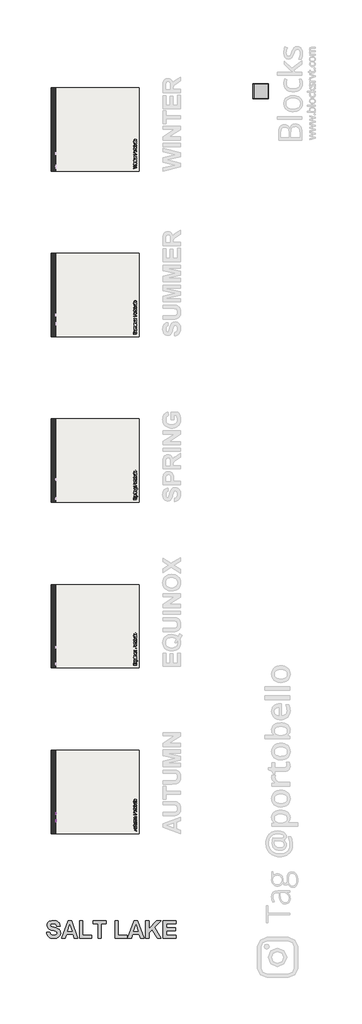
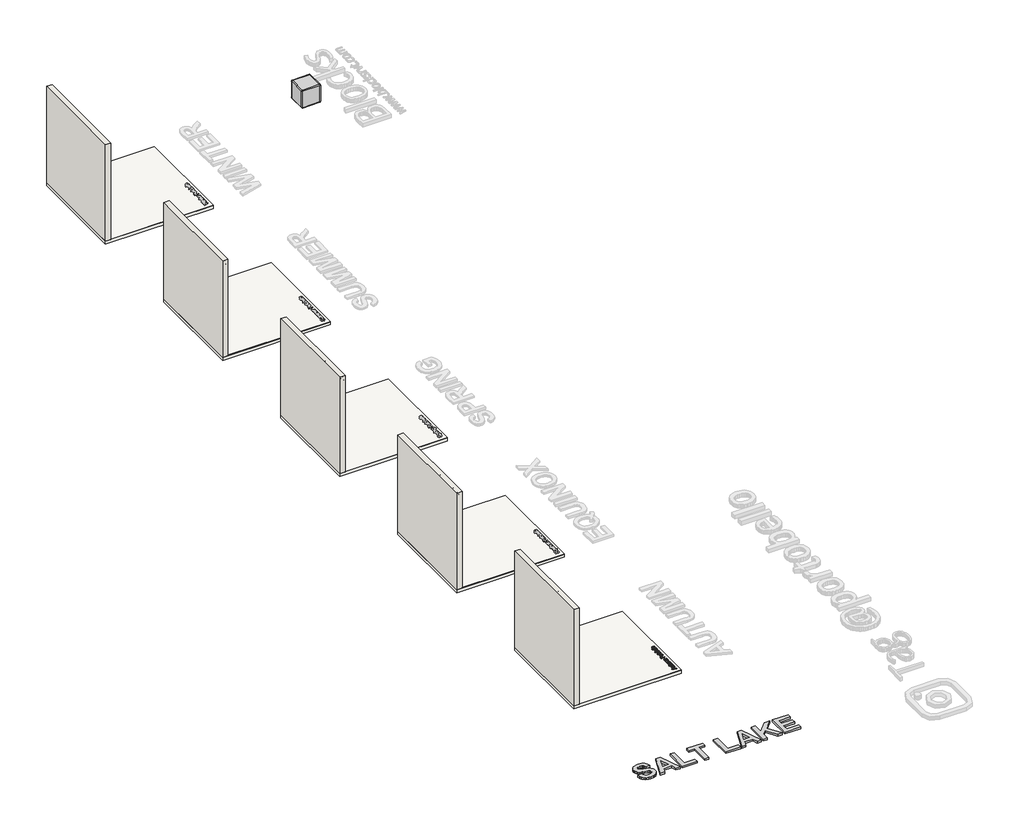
# One storey, part 1 of 7: 10 slabs, 5 proxies, 5 walls, 1 furniture element.
"""IFC4 building model written with IfcOpenShell, lengths in millimetres."""

from ifc_helpers import new_model, si_unit, frame, origin, origin_with_axes, place, context, project, spatial, polyline, outline, extrude, transform, mapped, element, save
from components import branco_22256ad2

model = new_model("IFC4")

# Units and contexts
model_context = context("Model", 3, world=origin())
ifc_project = project(units=[si_unit("LENGTHUNIT", "METRE", prefix="MILLI")], contexts=[model_context])

# Site, building, storey
site = spatial("IfcSite", under=ifc_project)
building = spatial("IfcBuilding", under=site)
storey = spatial("IfcBuildingStorey", under=building, Name="PORTOBELLO - SHOWROOM", Elevation=0.0)

# Proxies
placement = place(None, origin())
element("IfcBuildingElementProxy", 1, Name="10mm Arial", ObjectType="10mm Arial", at=placement, inside=storey, context=model_context, shape_type="SweptSolid", body=[
    extrude(outline(polyline([(-9176.8103543, 2482.3811258), (-9136.7112168, 2582.837436), (-9126.0181135, 2582.837436), (-9085.918976, 2482.3811258), (-9099.1872533, 2482.3811258), (-9110.689697, 2513.7737228), (-9152.0641588, 2513.7737228), (-9163.542077, 2482.3811258), (-9176.8103543, 2482.3811258)]), holes=[polyline([(-9147.4533711, 2526.3307615), (-9115.2759592, 2526.3307615), (-9124.3258563, 2551.0279061), (-9131.3646652, 2570.2803972), (-9137.6186591, 2553.1861472), (-9147.4533711, 2526.3307615)])]), frame((-21807.9634769, 0.0, 0.0), z_axis=(1.0, 0.0, 0.0), x_axis=(0.0, 1.0, 0.0)), (0.0, 0.0, 1.0), 20.0),
    extrude(outline(polyline([(-9026.9842804, 2482.3811258), (-9026.9842804, 2495.0607919), (-9036.8189924, 2484.37382), (-9049.6458113, 2480.811496), (-9061.4548233, 2483.3130936), (-9069.5972782, 2489.5916129), (-9073.3374118, 2498.8377138), (-9074.0731758, 2510.5118357), (-9074.0731758, 2556.1537286), (-9061.516137, 2556.1537286), (-9061.516137, 2516.4224731), (-9060.7558476, 2503.6201797), (-9055.7894406, 2496.1031243), (-9046.4329752, 2493.3685348), (-9035.9483383, 2496.1644379), (-9029.0198941, 2503.7795952), (-9026.9842804, 2517.7713738), (-9026.9842804, 2556.1537286), (-9014.4272416, 2556.1537286), (-9014.4272416, 2482.3811258), (-9026.9842804, 2482.3811258)])), frame((-21807.9634769, 0.0, 0.0), z_axis=(1.0, 0.0, 0.0), x_axis=(0.0, 1.0, 0.0)), (0.0, 0.0, 1.0), 20.0),
    extrude(outline(polyline([(-8970.4776059, 2492.8535), (-8968.9079761, 2482.0132438), (-8978.3012297, 2480.811496), (-8988.8226548, 2482.8961606), (-8994.0711046, 2488.3653396), (-8995.5916835, 2502.6146356), (-8995.5916835, 2543.5966898), (-9005.0094625, 2543.5966898), (-9005.0094625, 2556.1537286), (-8995.5916835, 2556.1537286), (-8995.5916835, 2574.0818445), (-8983.0346447, 2581.4640099), (-8983.0346447, 2556.1537286), (-8970.4776059, 2556.1537286), (-8970.4776059, 2543.5966898), (-8983.0346447, 2543.5966898), (-8983.0346447, 2502.9825176), (-8982.3724571, 2496.5077944), (-8980.2264788, 2494.2146633), (-8975.9467849, 2493.3685348), (-8970.4776059, 2492.8535)])), frame((-21807.9634769, 0.0, 0.0), z_axis=(1.0, 0.0, 0.0), x_axis=(0.0, 1.0, 0.0)), (0.0, 0.0, 1.0), 20.0),
    extrude(outline(polyline([(-8910.8316718, 2482.3811258), (-8910.8316718, 2495.0607919), (-8920.6663838, 2484.37382), (-8933.4932027, 2480.811496), (-8945.3022147, 2483.3130936), (-8953.4446696, 2489.5916129), (-8957.1848032, 2498.8377138), (-8957.9205672, 2510.5118357), (-8957.9205672, 2556.1537286), (-8945.3635284, 2556.1537286), (-8945.3635284, 2516.4224731), (-8944.6032389, 2503.6201797), (-8939.636832, 2496.1031243), (-8930.2803666, 2493.3685348), (-8919.7957297, 2496.1644379), (-8912.8672855, 2503.7795952), (-8910.8316718, 2517.7713738), (-8910.8316718, 2556.1537286), (-8898.274633, 2556.1537286), (-8898.274633, 2482.3811258), (-8910.8316718, 2482.3811258)])), frame((-21807.9634769, 0.0, 0.0), z_axis=(1.0, 0.0, 0.0), x_axis=(0.0, 1.0, 0.0)), (0.0, 0.0, 1.0), 20.0),
    extrude(outline(polyline([(-8881.0087047, 2482.3811258), (-8881.0087047, 2556.1537286), (-8868.4516659, 2556.1537286), (-8868.4516659, 2544.0136228), (-8859.8187018, 2553.9586994), (-8847.5314431, 2557.7233584), (-8834.9498789, 2553.885123), (-8828.0336974, 2543.130706), (-8818.2357736, 2554.0751953), (-8805.8626758, 2557.7233584), (-8796.423437, 2556.2058452), (-8789.4428761, 2551.6533055), (-8785.1294597, 2543.943112), (-8783.6916542, 2532.9526374), (-8783.6916542, 2482.3811258), (-8796.248693, 2482.3811258), (-8796.248693, 2527.5570348), (-8797.4136527, 2538.0416717), (-8801.6320329, 2543.2042824), (-8808.8057318, 2545.1663197), (-8821.1543041, 2540.1385991), (-8824.8423211, 2533.5964309), (-8826.0716601, 2524.0253677), (-8826.0716601, 2482.3811258), (-8838.6286989, 2482.3811258), (-8838.6286989, 2528.9549864), (-8841.5349666, 2541.1196177), (-8851.0631103, 2545.1663197), (-8860.358262, 2542.4685184), (-8866.5386796, 2534.5713182), (-8868.4516659, 2519.5862583), (-8868.4516659, 2482.3811258), (-8881.0087047, 2482.3811258)])), frame((-21807.9634769, 0.0, 0.0), z_axis=(1.0, 0.0, 0.0), x_axis=(0.0, 1.0, 0.0)), (0.0, 0.0, 1.0), 20.0),
    extrude(outline(polyline([(-8764.8560961, 2482.3811258), (-8764.8560961, 2556.1537286), (-8752.2990573, 2556.1537286), (-8752.2990573, 2545.8530327), (-8742.6973373, 2554.755777), (-8729.5884755, 2557.7233584), (-8717.7304125, 2555.3321255), (-8709.6370086, 2549.0536061), (-8705.8723495, 2539.819768), (-8705.2101619, 2527.6796622), (-8705.2101619, 2482.3811258), (-8717.7672007, 2482.3811258), (-8717.7672007, 2525.987405), (-8719.2142032, 2537.0974412), (-8724.327763, 2542.9712904), (-8732.9484644, 2545.1663197), (-8746.5723609, 2540.2367009), (-8750.8673832, 2533.0936589), (-8752.2990573, 2521.5237701), (-8752.2990573, 2482.3811258), (-8764.8560961, 2482.3811258)])), frame((-21807.9634769, 0.0, 0.0), z_axis=(1.0, 0.0, 0.0), x_axis=(0.0, 1.0, 0.0)), (0.0, 0.0, 1.0), 20.0),
])
element("IfcBuildingElementProxy", 2, Name="10mm Arial", ObjectType="10mm Arial", at=placement, inside=storey, context=model_context, shape_type="SweptSolid", body=[
    extrude(outline(polyline([(-8639.9328663, 2482.3811258), (-8639.9328663, 2582.837436), (-8602.7032084, 2582.837436), (-8587.693623, 2581.8809428), (-8575.4922035, 2577.184316), (-8567.5827406, 2567.4722313), (-8564.5906337, 2553.7747584), (-8566.610919, 2541.9350895), (-8572.6717749, 2532.0697206), (-8584.005606, 2525.4110565), (-8601.8448171, 2523.1915018), (-8627.3758276, 2523.1915018), (-8627.3758276, 2482.3811258), (-8639.9328663, 2482.3811258)]), holes=[polyline([(-8627.3758276, 2535.7485406), (-8601.1090531, 2535.7485406), (-8582.6168515, 2540.3593283), (-8578.5149672, 2545.908215), (-8577.1476725, 2553.3333), (-8580.3727713, 2563.7320977), (-8588.8463199, 2569.4220059), (-8601.4033587, 2570.2803972), (-8627.3758276, 2570.2803972), (-8627.3758276, 2535.7485406)])]), frame((-21807.9634769, 0.0, 0.0), z_axis=(1.0, 0.0, 0.0), x_axis=(0.0, 1.0, 0.0)), (0.0, 0.0, 1.0), 20.0),
    extrude(outline(polyline([(-8552.033595, 2519.2674272), (-8549.3173996, 2537.0545217), (-8541.1688134, 2549.5563782), (-8531.1011094, 2555.6816134), (-8519.0468427, 2557.7233584), (-8505.8552075, 2555.2370893), (-8495.318454, 2547.7782818), (-8488.4114696, 2535.9355473), (-8486.1091414, 2520.2974968), (-8490.1803688, 2497.954797), (-8502.0384318, 2485.3119191), (-8519.0468427, 2480.811496), (-8532.3978935, 2483.2885681), (-8542.9223842, 2490.7197844), (-8549.7557923, 2502.8108393), (-8552.033595, 2519.2674272)]), holes=[polyline([(-8539.4765562, 2519.2919527), (-8538.0234223, 2507.9274647), (-8533.6640207, 2499.8309951), (-8527.1034584, 2494.9841499), (-8519.0468427, 2493.3685348), (-8511.0270152, 2494.9933469), (-8504.4787157, 2499.8677833), (-8500.1193141, 2508.0715518), (-8498.6661802, 2519.6843601), (-8500.1285111, 2530.7177543), (-8504.5155039, 2538.7038593), (-8511.0730005, 2543.5507046), (-8519.0468427, 2545.1663197), (-8527.1034584, 2543.5568359), (-8533.6640207, 2538.7283848), (-8538.0234223, 2530.6503093), (-8539.4765562, 2519.2919527)])]), frame((-21807.9634769, 0.0, 0.0), z_axis=(1.0, 0.0, 0.0), x_axis=(0.0, 1.0, 0.0)), (0.0, 0.0, 1.0), 20.0),
    extrude(outline(polyline([(-8471.9824728, 2482.3811258), (-8471.9824728, 2556.1537286), (-8460.9950639, 2556.1537286), (-8460.9950639, 2545.2398961), (-8453.1959656, 2555.2953373), (-8445.3478164, 2557.7233584), (-8432.7417267, 2553.8483348), (-8436.9355814, 2542.5911457), (-8445.7647493, 2545.1663197), (-8452.8648718, 2542.6892476), (-8457.3898203, 2535.822117), (-8459.425434, 2521.1558881), (-8459.425434, 2482.3811258), (-8471.9824728, 2482.3811258)])), frame((-21807.9634769, 0.0, 0.0), z_axis=(1.0, 0.0, 0.0), x_axis=(0.0, 1.0, 0.0)), (0.0, 0.0, 1.0), 20.0),
    extrude(outline(polyline([(-8398.20987, 2492.8535), (-8396.6402402, 2482.0132438), (-8406.0334938, 2480.811496), (-8416.5549189, 2482.8961606), (-8421.8033687, 2488.3653396), (-8423.3239476, 2502.6146356), (-8423.3239476, 2543.5966898), (-8432.7417267, 2543.5966898), (-8432.7417267, 2553.8483348), (-8432.7417267, 2556.1537286), (-8423.3239476, 2556.1537286), (-8423.3239476, 2574.0818445), (-8410.7669088, 2581.4640099), (-8410.7669088, 2556.1537286), (-8398.20987, 2556.1537286), (-8398.20987, 2543.5966898), (-8410.7669088, 2543.5966898), (-8410.7669088, 2502.9825176), (-8410.1047212, 2496.5077944), (-8407.9587429, 2494.2146633), (-8403.679049, 2493.3685348), (-8398.20987, 2492.8535)])), frame((-21807.9634769, 0.0, 0.0), z_axis=(1.0, 0.0, 0.0), x_axis=(0.0, 1.0, 0.0)), (0.0, 0.0, 1.0), 20.0),
    extrude(outline(polyline([(-8388.792091, 2519.2674272), (-8386.0758956, 2537.0545217), (-8377.9273094, 2549.5563782), (-8367.8596054, 2555.6816134), (-8355.8053387, 2557.7233584), (-8342.6137035, 2555.2370893), (-8332.07695, 2547.7782818), (-8325.1699656, 2535.9355473), (-8322.8676374, 2520.2974968), (-8326.9388648, 2497.954797), (-8338.7969278, 2485.3119191), (-8355.8053387, 2480.811496), (-8369.1563895, 2483.2885681), (-8379.6808802, 2490.7197844), (-8386.5142883, 2502.8108393), (-8388.792091, 2519.2674272)]), holes=[polyline([(-8376.2350522, 2519.2919527), (-8374.7819183, 2507.9274647), (-8370.4225167, 2499.8309951), (-8363.8619544, 2494.9841499), (-8355.8053387, 2493.3685348), (-8347.7855112, 2494.9933469), (-8341.2372117, 2499.8677833), (-8336.8778101, 2508.0715518), (-8335.4246762, 2519.6843601), (-8336.8870071, 2530.7177543), (-8341.2739999, 2538.7038593), (-8347.8314965, 2543.5507046), (-8355.8053387, 2545.1663197), (-8363.8619544, 2543.5568359), (-8370.4225167, 2538.7283848), (-8374.7819183, 2530.6503093), (-8376.2350522, 2519.2919527)])]), frame((-21807.9634769, 0.0, 0.0), z_axis=(1.0, 0.0, 0.0), x_axis=(0.0, 1.0, 0.0)), (0.0, 0.0, 1.0), 20.0),
    extrude(outline(polyline([(-8296.18393, 2482.3811258), (-8308.7409688, 2482.3811258), (-8308.7409688, 2582.837436), (-8296.18393, 2582.837436), (-8296.18393, 2545.5832526), (-8287.3915504, 2554.688332), (-8276.4654551, 2557.7233584), (-8263.8838909, 2554.9887689), (-8254.1227553, 2547.3000352), (-8248.1262787, 2535.3438704), (-8245.955775, 2520.3710732), (-8248.2029208, 2503.607917), (-8254.9443584, 2491.1367173), (-8264.8373184, 2483.3928013), (-8276.5390315, 2480.811496), (-8287.7042501, 2484.140828), (-8296.18393, 2494.1288242), (-8296.18393, 2482.3811258)]), holes=[polyline([(-8296.18393, 2519.782462), (-8292.7503648, 2502.2222281), (-8286.1714084, 2495.5819581), (-8277.618152, 2493.3685348), (-8270.3708767, 2494.9994783), (-8264.1781965, 2499.8923088), (-8259.9291594, 2508.0163695), (-8258.5128137, 2519.3410036), (-8259.8709114, 2530.8311846), (-8263.9452045, 2538.8632748), (-8269.9447467, 2543.5905585), (-8277.0785918, 2545.1663197), (-8284.3258671, 2543.5353762), (-8290.5185473, 2538.6425456), (-8294.7675844, 2530.6656377), (-8296.18393, 2519.782462)])]), frame((-21807.9634769, 0.0, 0.0), z_axis=(1.0, 0.0, 0.0), x_axis=(0.0, 1.0, 0.0)), (0.0, 0.0, 1.0), 20.0),
    extrude(outline(polyline([(-8180.1784742, 2504.3559437), (-8167.8666901, 2502.7863138), (-8172.3027339, 2493.5095562), (-8179.3813966, 2486.5749806), (-8188.9432628, 2482.2523671), (-8200.8289169, 2480.811496), (-8215.5625908, 2483.2977651), (-8226.8994876, 2490.7565726), (-8234.1283688, 2502.7035404), (-8236.5379959, 2518.6542906), (-8234.1038434, 2535.1415353), (-8226.8013858, 2547.4717135), (-8215.6177731, 2555.1604472), (-8201.5401554, 2557.7233584), (-8187.9009305, 2555.1665786), (-8177.0024263, 2547.496239), (-8169.8563186, 2535.1905862), (-8167.4742827, 2518.727867), (-8167.5478591, 2515.3433526), (-8223.9809571, 2515.3433526), (-8221.8073877, 2505.9439676), (-8216.7582073, 2499.0339175), (-8209.4710781, 2494.7848804), (-8200.5836622, 2493.3685348), (-8188.2718781, 2495.9927597), (-8180.1784742, 2504.3559437)]), holes=[polyline([(-8223.9809571, 2527.9003914), (-8180.0313214, 2527.9003914), (-8185.059042, 2539.2802078), (-8192.3798937, 2543.6947917), (-8201.5892064, 2545.1663197), (-8217.0525129, 2540.4696929), (-8221.9177523, 2534.9790541), (-8223.9809571, 2527.9003914)])]), frame((-21807.9634769, 0.0, 0.0), z_axis=(1.0, 0.0, 0.0), x_axis=(0.0, 1.0, 0.0)), (0.0, 0.0, 1.0), 20.0),
    extrude(outline(polyline([(-21787.9634769, -8142.3602051), (-21787.9634769, -8154.9172439), (-21807.9634769, -8154.9172439), (-21807.9634769, -8142.3602051), (-21787.9634769, -8142.3602051)])), frame((0.0, 0.0, 2482.3811258), z_axis=(0.0, 0.0, 1.0), x_axis=(1.0, 0.0, 0.0)), (0.0, 0.0, 1.0), 100.4563101),
    extrude(outline(polyline([(-21787.9634769, -8110.9676082), (-21787.9634769, -8123.524647), (-21807.9634769, -8123.524647), (-21807.9634769, -8110.9676082), (-21787.9634769, -8110.9676082)])), frame((0.0, 0.0, 2482.3811258), z_axis=(0.0, 0.0, 1.0), x_axis=(1.0, 0.0, 0.0)), (0.0, 0.0, 1.0), 100.4563101),
    extrude(outline(polyline([(-8095.2713098, 2519.2674272), (-8092.5551144, 2537.0545217), (-8084.4065282, 2549.5563782), (-8074.3388242, 2555.6816134), (-8062.2845575, 2557.7233584), (-8049.0929223, 2555.2370893), (-8038.5561688, 2547.7782818), (-8031.6491844, 2535.9355473), (-8029.3468562, 2520.2974968), (-8033.4180836, 2497.954797), (-8045.2761466, 2485.3119191), (-8062.2845575, 2480.811496), (-8075.6356083, 2483.2885681), (-8086.160099, 2490.7197844), (-8092.9935071, 2502.8108393), (-8095.2713098, 2519.2674272)]), holes=[polyline([(-8082.714271, 2519.2919527), (-8081.2611371, 2507.9274647), (-8076.9017355, 2499.8309951), (-8070.3411732, 2494.9841499), (-8062.2845575, 2493.3685348), (-8054.26473, 2494.9933469), (-8047.7164305, 2499.8677833), (-8043.3570289, 2508.0715518), (-8041.903895, 2519.6843601), (-8043.3662259, 2530.7177543), (-8047.7532187, 2538.7038593), (-8054.3107153, 2543.5507046), (-8062.2845575, 2545.1663197), (-8070.3411732, 2543.5568359), (-8076.9017355, 2538.7283848), (-8081.2611371, 2530.6503093), (-8082.714271, 2519.2919527)])]), frame((-21807.9634769, 0.0, 0.0), z_axis=(1.0, 0.0, 0.0), x_axis=(0.0, 1.0, 0.0)), (0.0, 0.0, 1.0), 20.0),
])
element("IfcBuildingElementProxy", 3, Name="10mm Arial", ObjectType="10mm Arial", at=placement, inside=storey, context=model_context, shape_type="SweptSolid", body=[
    extrude(outline(polyline([(-19183.5351931, -9176.8103543), (-19283.9915032, -9136.7112168), (-19283.9915032, -9126.0181135), (-19183.5351931, -9085.918976), (-19183.5351931, -9099.1872533), (-19214.92779, -9110.689697), (-19214.92779, -9152.0641588), (-19183.5351931, -9163.542077), (-19183.5351931, -9176.8103543)]), holes=[polyline([(-19227.4848288, -9147.4533711), (-19227.4848288, -9115.2759592), (-19252.1819734, -9124.3258563), (-19271.4344645, -9131.3646652), (-19254.3402144, -9137.6186591), (-19227.4848288, -9147.4533711)])]), frame((0.0, 0.0, 15.0), z_axis=(0.0, 0.0, 1.0), x_axis=(1.0, 0.0, 0.0)), (0.0, 0.0, 1.0), 20.0),
    extrude(outline(polyline([(-19183.5351931, -9026.9842804), (-19196.2148592, -9026.9842804), (-19185.5278872, -9036.8189924), (-19181.9655632, -9049.6458113), (-19184.4671608, -9061.4548233), (-19190.7456802, -9069.5972782), (-19199.991781, -9073.3374118), (-19211.665903, -9074.0731758), (-19257.3077959, -9074.0731758), (-19257.3077959, -9061.516137), (-19217.5765404, -9061.516137), (-19204.7742469, -9060.7558476), (-19197.2571915, -9055.7894406), (-19194.522602, -9046.4329752), (-19197.3185052, -9035.9483383), (-19204.9336625, -9029.0198941), (-19218.925441, -9026.9842804), (-19257.3077959, -9026.9842804), (-19257.3077959, -9014.4272416), (-19183.5351931, -9014.4272416), (-19183.5351931, -9026.9842804)])), frame((0.0, 0.0, 15.0), z_axis=(0.0, 0.0, 1.0), x_axis=(1.0, 0.0, 0.0)), (0.0, 0.0, 1.0), 20.0),
    extrude(outline(polyline([(-19194.0075672, -8970.4776059), (-19183.1673111, -8968.9079761), (-19181.9655632, -8978.3012297), (-19184.0502279, -8988.8226548), (-19189.5194069, -8994.0711046), (-19203.7687028, -8995.5916835), (-19244.7507571, -8995.5916835), (-19244.7507571, -9005.0094625), (-19257.3077959, -9005.0094625), (-19257.3077959, -8995.5916835), (-19275.2359118, -8995.5916835), (-19282.6180771, -8983.0346447), (-19257.3077959, -8983.0346447), (-19257.3077959, -8970.4776059), (-19244.7507571, -8970.4776059), (-19244.7507571, -8983.0346447), (-19204.1365848, -8983.0346447), (-19197.6618617, -8982.3724571), (-19195.3687306, -8980.2264788), (-19194.522602, -8975.9467849), (-19194.0075672, -8970.4776059)])), frame((0.0, 0.0, 15.0), z_axis=(0.0, 0.0, 1.0), x_axis=(1.0, 0.0, 0.0)), (0.0, 0.0, 1.0), 20.0),
    extrude(outline(polyline([(-19183.5351931, -8910.8316718), (-19196.2148592, -8910.8316718), (-19185.5278872, -8920.6663838), (-19181.9655632, -8933.4932027), (-19184.4671608, -8945.3022147), (-19190.7456802, -8953.4446696), (-19199.991781, -8957.1848032), (-19211.665903, -8957.9205672), (-19257.3077959, -8957.9205672), (-19257.3077959, -8945.3635284), (-19217.5765404, -8945.3635284), (-19204.7742469, -8944.6032389), (-19197.2571915, -8939.636832), (-19194.522602, -8930.2803666), (-19197.3185052, -8919.7957297), (-19204.9336625, -8912.8672855), (-19218.925441, -8910.8316718), (-19257.3077959, -8910.8316718), (-19257.3077959, -8898.274633), (-19183.5351931, -8898.274633), (-19183.5351931, -8910.8316718)])), frame((0.0, 0.0, 15.0), z_axis=(0.0, 0.0, 1.0), x_axis=(1.0, 0.0, 0.0)), (0.0, 0.0, 1.0), 20.0),
    extrude(outline(polyline([(-19183.5351931, -8881.0087047), (-19257.3077959, -8881.0087047), (-19257.3077959, -8868.4516659), (-19245.16769, -8868.4516659), (-19255.1127666, -8859.8187018), (-19258.8774257, -8847.5314431), (-19255.0391902, -8834.9498789), (-19244.2847732, -8828.0336974), (-19255.2292626, -8818.2357736), (-19258.8774257, -8805.8626758), (-19257.3599125, -8796.423437), (-19252.8073728, -8789.4428761), (-19245.0971793, -8785.1294597), (-19234.1067047, -8783.6916542), (-19183.5351931, -8783.6916542), (-19183.5351931, -8796.248693), (-19228.7111021, -8796.248693), (-19239.195739, -8797.4136527), (-19244.3583496, -8801.6320329), (-19246.3203869, -8808.8057318), (-19241.2926663, -8821.1543041), (-19234.7504982, -8824.8423211), (-19225.1794349, -8826.0716601), (-19183.5351931, -8826.0716601), (-19183.5351931, -8838.6286989), (-19230.1090537, -8838.6286989), (-19242.273685, -8841.5349666), (-19246.3203869, -8851.0631103), (-19243.6225856, -8860.358262), (-19235.7253855, -8866.5386796), (-19220.7403255, -8868.4516659), (-19183.5351931, -8868.4516659), (-19183.5351931, -8881.0087047)])), frame((0.0, 0.0, 15.0), z_axis=(0.0, 0.0, 1.0), x_axis=(1.0, 0.0, 0.0)), (0.0, 0.0, 1.0), 20.0),
    extrude(outline(polyline([(-19183.5351931, -8764.8560961), (-19257.3077959, -8764.8560961), (-19257.3077959, -8752.2990573), (-19247.0071, -8752.2990573), (-19255.9098443, -8742.6973373), (-19258.8774257, -8729.5884755), (-19256.4861927, -8717.7304125), (-19250.2076733, -8709.6370086), (-19240.9738353, -8705.8723495), (-19228.8337294, -8705.2101619), (-19183.5351931, -8705.2101619), (-19183.5351931, -8717.7672007), (-19227.1414722, -8717.7672007), (-19238.2515085, -8719.2142032), (-19244.1253577, -8724.327763), (-19246.3203869, -8732.9484644), (-19241.3907682, -8746.5723609), (-19234.2477261, -8750.8673832), (-19222.6778374, -8752.2990573), (-19183.5351931, -8752.2990573), (-19183.5351931, -8764.8560961)])), frame((0.0, 0.0, 15.0), z_axis=(0.0, 0.0, 1.0), x_axis=(1.0, 0.0, 0.0)), (0.0, 0.0, 1.0), 20.0),
])
element("IfcBuildingElementProxy", 4, Name="10mm Arial Narrow", ObjectType="10mm Arial Narrow", at=placement, inside=storey, context=model_context, shape_type="SweptSolid", body=[
    extrude(outline(polyline([(-19183.5351931, -8642.7978072), (-19284.2537968, -8642.7978072), (-19284.2537968, -8611.5009225), (-19282.3754761, -8595.205221), (-19272.8950329, -8583.7322349), (-19255.8759241, -8579.4425565), (-19243.8000986, -8581.2288649), (-19234.1737048, -8586.5877901), (-19227.8724464, -8596.3315789), (-19225.7720269, -8611.2724781), (-19225.7720269, -8633.0508456), (-19183.5351931, -8633.0508456), (-19183.5351931, -8642.7978072)]), holes=[polyline([(-19237.1434822, -8633.0508456), (-19237.1434822, -8610.0794906), (-19241.6742964, -8594.2152952), (-19255.3428871, -8589.1895181), (-19265.5086636, -8591.6643326), (-19271.3086134, -8597.6419614), (-19272.8823416, -8610.307935), (-19272.8823416, -8633.0508456), (-19237.1434822, -8633.0508456)])]), frame((0.0, 0.0, 15.0), z_axis=(0.0, 0.0, 1.0), x_axis=(1.0, 0.0, 0.0)), (0.0, 0.0, 1.0), 20.0),
    extrude(outline(polyline([(-19220.0862993, -8571.3200884), (-19236.6770748, -8569.3656196), (-19248.6291597, -8563.5022129), (-19255.8537142, -8554.6436462), (-19258.2618991, -8543.7036971), (-19255.8537142, -8532.8906615), (-19248.6291597, -8524.0067121), (-19236.8674452, -8518.0671573), (-19220.8477807, -8516.0873057), (-19203.6858941, -8518.0322561), (-19191.5434389, -8523.8671071), (-19184.3188843, -8532.7161553), (-19181.9106995, -8543.7036971), (-19184.32523, -8554.5643252), (-19191.5688216, -8563.4387562), (-19203.5272521, -8569.3497554), (-19220.0862993, -8571.3200884)]), holes=[polyline([(-19220.111682, -8561.5731268), (-19207.5599306, -8560.2690899), (-19198.6886725, -8556.3569793), (-19193.415414, -8550.5157826), (-19191.6576611, -8543.4244872), (-19193.4312782, -8536.7044141), (-19198.7521293, -8531.0123408), (-19207.6392516, -8527.1287857), (-19220.111682, -8525.8342674), (-19232.6253593, -8527.1383042), (-19241.483926, -8531.0504148), (-19246.7571846, -8536.8916116), (-19248.5149374, -8543.9829069), (-19246.7476661, -8550.7505727), (-19241.445852, -8556.4331275), (-19232.5777667, -8560.2881269), (-19220.111682, -8561.5731268)])]), frame((0.0, 0.0, 15.0), z_axis=(0.0, 0.0, 1.0), x_axis=(1.0, 0.0, 0.0)), (0.0, 0.0, 1.0), 20.0),
    extrude(outline(polyline([(-19191.6576611, -8444.6095869), (-19181.9106995, -8442.9850933), (-19181.9106995, -8450.34608), (-19184.030156, -8458.6208443), (-19189.8301058, -8462.9359055), (-19204.475931, -8464.1035102), (-19246.8904438, -8464.1035102), (-19246.8904438, -8472.2259783), (-19250.1394311, -8472.2259783), (-19245.2659502, -8473.8504719), (-19246.8904438, -8481.4145203), (-19244.5679256, -8487.4936799), (-19238.0826426, -8491.3645436), (-19222.675336, -8493.3443952), (-19183.5351931, -8493.3443952), (-19183.5351931, -8503.0913569), (-19256.6374055, -8503.0913569), (-19256.6374055, -8493.3443952), (-19246.9412093, -8493.3443952), (-19256.0282204, -8487.1002479), (-19258.2618991, -8480.7038043), (-19256.6374055, -8472.2259783), (-19256.6374055, -8464.1035102), (-19272.8823416, -8464.1035102), (-19281.0048096, -8454.3565486), (-19256.6374055, -8454.3565486), (-19256.6374055, -8444.6095869), (-19246.8904438, -8444.6095869), (-19246.8904438, -8454.3565486), (-19202.2422523, -8454.3565486), (-19194.2466978, -8453.4935364), (-19191.6576611, -8448.8738827), (-19191.6576611, -8444.6095869)])), frame((0.0, 0.0, 15.0), z_axis=(0.0, 0.0, 1.0), x_axis=(1.0, 0.0, 0.0)), (0.0, 0.0, 1.0), 20.0),
    extrude(outline(polyline([(-19220.0862993, -8438.1116125), (-19236.6770748, -8436.1571436), (-19248.6291597, -8430.293737), (-19255.8537142, -8421.4351703), (-19258.2618991, -8410.4952211), (-19255.8537142, -8399.6821856), (-19248.6291597, -8390.7982361), (-19236.8674452, -8384.8586814), (-19220.8477807, -8382.8788298), (-19203.6858941, -8384.8237802), (-19191.5434389, -8390.6586312), (-19184.3188843, -8399.5076794), (-19181.9106995, -8410.4952211), (-19184.32523, -8421.3558493), (-19191.5688216, -8430.2302802), (-19203.5272521, -8436.1412794), (-19220.0862993, -8438.1116125)]), holes=[polyline([(-19220.111682, -8428.3646508), (-19207.5599306, -8427.060614), (-19198.6886725, -8423.1485034), (-19193.415414, -8417.3073067), (-19191.6576611, -8410.2160113), (-19193.4312782, -8403.4959381), (-19198.7521293, -8397.8038648), (-19207.6392516, -8393.9203098), (-19220.111682, -8392.6257914), (-19232.6253593, -8393.9298283), (-19241.483926, -8397.8419389), (-19246.7571846, -8403.6831356), (-19248.5149374, -8410.774431), (-19246.7476661, -8417.5420967), (-19241.445852, -8423.2246515), (-19232.5777667, -8427.079651), (-19220.111682, -8428.3646508)])]), frame((0.0, 0.0, 15.0), z_axis=(0.0, 0.0, 1.0), x_axis=(1.0, 0.0, 0.0)), (0.0, 0.0, 1.0), 20.0),
    extrude(outline(polyline([(-19183.5351931, -8360.1359193), (-19183.5351931, -8369.8828809), (-19284.2537968, -8369.8828809), (-19284.2537968, -8360.1359193), (-19248.8449127, -8360.1359193), (-19255.9266895, -8352.7368585), (-19258.2618991, -8343.5356252), (-19254.0610602, -8330.6538985), (-19241.3316298, -8321.3765171), (-19220.644719, -8317.8990854), (-19204.1903755, -8319.8313444), (-19191.9876364, -8325.6281214), (-19184.4299337, -8334.0012438), (-19181.9106995, -8343.6625388), (-19184.5251189, -8353.003377), (-19192.2922289, -8360.1359193), (-19183.5351931, -8360.1359193)]), holes=[polyline([(-19220.644719, -8360.1359193), (-19203.3971657, -8358.0545368), (-19194.6655126, -8352.1657475), (-19191.6576611, -8343.7133042), (-19193.4471424, -8337.7705766), (-19198.8155861, -8332.5322193), (-19220.2385956, -8327.6460471), (-19241.6742964, -8332.3545403), (-19246.8047772, -8337.5992433), (-19248.5149374, -8343.9163659), (-19246.7254562, -8349.8939947), (-19241.3570125, -8355.1862903), (-19220.644719, -8360.1359193)])]), frame((0.0, 0.0, 15.0), z_axis=(0.0, 0.0, 1.0), x_axis=(1.0, 0.0, 0.0)), (0.0, 0.0, 1.0), 20.0),
    extrude(outline(polyline([(-19206.2781036, -8265.91529), (-19204.65361, -8256.1683283), (-19194.7670434, -8259.8678587), (-19187.6471925, -8265.6868455), (-19183.3448227, -8273.3904988), (-19181.9106995, -8282.7440284), (-19184.32523, -8294.3375824), (-19191.5688216, -8303.4817047), (-19203.3749559, -8309.4212594), (-19219.4771142, -8311.401111), (-19236.1440379, -8309.4117409), (-19248.3245671, -8303.4436306), (-19255.7775661, -8294.4295948), (-19258.2618991, -8283.3024481), (-19255.8632328, -8272.6194989), (-19248.6672337, -8263.8719816), (-19236.9277291, -8258.0371305), (-19220.8985461, -8256.0921802), (-19217.6495589, -8256.1683283), (-19217.6495589, -8301.6541493), (-19198.206401, -8295.6511378), (-19193.2948461, -8289.7211016), (-19191.6576611, -8282.6171149), (-19195.3127718, -8272.4386471), (-19206.2781036, -8265.91529)]), holes=[polyline([(-19227.3965205, -8300.9941988), (-19227.3965205, -8265.91529), (-19241.661605, -8270.1795857), (-19246.8016043, -8276.0049182), (-19248.5149374, -8283.2263), (-19242.8038271, -8295.4353848), (-19227.3965205, -8300.9941988)])]), frame((0.0, 0.0, 15.0), z_axis=(0.0, 0.0, 1.0), x_axis=(1.0, 0.0, 0.0)), (0.0, 0.0, 1.0), 20.0),
    extrude(outline(polyline([(-19183.5351931, -8243.1723794), (-19284.2537968, -8243.1723794), (-19284.2537968, -8233.4254178), (-19183.5351931, -8233.4254178), (-19183.5351931, -8243.1723794)])), frame((0.0, 0.0, 15.0), z_axis=(0.0, 0.0, 1.0), x_axis=(1.0, 0.0, 0.0)), (0.0, 0.0, 1.0), 20.0),
    extrude(outline(polyline([(-19183.5351931, -8217.1804817), (-19284.2537968, -8217.1804817), (-19284.2537968, -8207.43352), (-19183.5351931, -8207.43352), (-19183.5351931, -8217.1804817)])), frame((0.0, 0.0, 15.0), z_axis=(0.0, 0.0, 1.0), x_axis=(1.0, 0.0, 0.0)), (0.0, 0.0, 1.0), 20.0),
    extrude(outline(polyline([(-19220.0862993, -8196.0620648), (-19236.6770748, -8194.1075959), (-19248.6291597, -8188.2441893), (-19255.8537142, -8179.3856226), (-19258.2618991, -8168.4456734), (-19255.8537142, -8157.6326378), (-19248.6291597, -8148.7486884), (-19236.8674452, -8142.8091337), (-19220.8477807, -8140.8292821), (-19203.6858941, -8142.7742324), (-19191.5434389, -8148.6090835), (-19184.3188843, -8157.4581317), (-19181.9106995, -8168.4456734), (-19184.32523, -8179.3063016), (-19191.5688216, -8188.1807325), (-19203.5272521, -8194.0917317), (-19220.0862993, -8196.0620648)]), holes=[polyline([(-19220.111682, -8186.3151031), (-19207.5599306, -8185.0110663), (-19198.6886725, -8181.0989557), (-19193.415414, -8175.2577589), (-19191.6576611, -8168.1664636), (-19193.4312782, -8161.4463904), (-19198.7521293, -8155.7543171), (-19207.6392516, -8151.8707621), (-19220.111682, -8150.5762437), (-19232.6253593, -8151.8802806), (-19241.483926, -8155.7923912), (-19246.7571846, -8161.6335879), (-19248.5149374, -8168.7248833), (-19246.7476661, -8175.492549), (-19241.445852, -8181.1751038), (-19232.5777667, -8185.0301033), (-19220.111682, -8186.3151031)])]), frame((0.0, 0.0, 15.0), z_axis=(0.0, 0.0, 1.0), x_axis=(1.0, 0.0, 0.0)), (0.0, 0.0, 1.0), 20.0),
])
element("IfcBuildingElementProxy", 5, Name="600mm Arial", ObjectType="600mm Arial", at=placement, inside=storey, context=model_context, shape_type="SweptSolid", body=[
    extrude(outline(polyline([(-22101.2657061, -12450.6397445), (-21994.381388, -12441.732718), (-21987.9098766, -12467.462195), (-21978.7940916, -12489.5383994), (-21967.0340332, -12507.9613311), (-21952.6297013, -12522.7309903), (-21935.5376045, -12534.0561354), (-21915.7142516, -12542.1455247), (-21893.1596424, -12546.9991583), (-21867.8737772, -12548.6170361), (-21841.3005682, -12547.186171), (-21818.224063, -12542.8935757), (-21798.6442616, -12535.7392502), (-21782.5611639, -12525.7231945), (-21770.0182613, -12513.7935199), (-21761.0590452, -12500.8983375), (-21755.6835155, -12487.0376473), (-21753.8916723, -12472.2114494), (-21756.86648, -12454.0320691), (-21765.790903, -12438.7405138), (-21782.1610436, -12425.8148875), (-21807.4730037, -12414.7332939), (-21900.1617482, -12390.9348325), (-21943.1833821, -12379.3226446), (-21979.2811946, -12366.3361304), (-22008.4551858, -12351.9752898), (-22030.7053555, -12336.2401228), (-22053.7818607, -12311.876274), (-22070.2650787, -12284.9899273), (-22080.1550095, -12255.581083), (-22083.4516531, -12223.6497409), (-22077.3976585, -12182.315571), (-22059.2356748, -12143.7648469), (-22045.7881523, -12126.2900263), (-22029.6615633, -12111.0245659), (-22010.8559078, -12097.9684655), (-21989.3711856, -12087.1217252), (-21939.02561, -12072.5086348), (-21879.2859049, -12067.6376047), (-21829.8666948, -12070.6733003), (-21786.9624875, -12079.7803869), (-21750.573283, -12094.9588647), (-21720.6990813, -12116.2087336), (-21697.2442015, -12142.5209946), (-21680.1129625, -12172.8866484), (-21669.3053644, -12207.3056952), (-21664.8214072, -12245.7781349), (-21771.7057253, -12245.7781349), (-21783.5179734, -12209.0540471), (-21792.6468057, -12195.1933569), (-21803.9241103, -12184.3335692), (-21817.8195935, -12176.1441498), (-21834.8029619, -12170.2945645), (-21878.0333543, -12165.6148963), (-21923.5426928, -12170.5903056), (-21942.1221934, -12176.8095673), (-21957.9182483, -12185.5165336), (-21971.9050633, -12200.4775547), (-21976.567335, -12219.7529168), (-21972.3225802, -12237.9496936), (-21959.5883157, -12253.2934385), (-21944.9534797, -12262.2048141), (-21922.6206764, -12271.2640603), (-21854.8611681, -12289.8261644), (-21782.5437674, -12309.1363195), (-21731.9024506, -12329.3510945), (-21696.4135169, -12353.8280209), (-21669.5532651, -12385.9246301), (-21659.6894291, -12404.9303458), (-21652.6438319, -12426.0410424), (-21647.0073542, -12474.5773783), (-21648.6730726, -12498.1322882), (-21653.6702276, -12520.9217506), (-21661.9988193, -12542.9457653), (-21673.6588476, -12564.2043325), (-21688.3676189, -12583.7406426), (-21705.8424395, -12600.5978861), (-21726.0833093, -12614.7760631), (-21749.0902283, -12626.2751735), (-21774.9806233, -12635.1648035), (-21803.8719207, -12641.5145391), (-21870.6572229, -12646.5943277), (-21920.6026782, -12643.4673003), (-21964.3897597, -12634.0862182), (-22002.0184674, -12618.4510813), (-22033.4888013, -12596.5618897), (-22059.0182181, -12568.6795914), (-22078.8241745, -12535.0651345), (-22092.9066705, -12495.7185188), (-22101.2657061, -12450.6397445)])), origin_with_axes(), (0.0, 0.0, 1.0), 50.0),
    extrude(outline(polyline([(-21085.8646842, -12637.6873012), (-21198.1767216, -12637.6873012), (-21242.155165, -12512.9889301), (-21454.1145614, -12512.9889301), (-21497.5363156, -12637.6873012), (-21611.3792482, -12637.6873012), (-21406.5176385, -12076.5446312), (-21292.674706, -12076.5446312), (-21085.8646842, -12637.6873012)]), holes=[polyline([(-21276.3915481, -12415.0116385), (-21348.6219662, -12210.1500288), (-21419.8781783, -12415.0116385), (-21276.3915481, -12415.0116385)])]), origin_with_axes(), (0.0, 0.0, 1.0), 50.0),
    extrude(outline(polyline([(-21032.4225252, -12637.6873012), (-21032.4225252, -12076.5446312), (-20925.5382071, -12076.5446312), (-20925.5382071, -12539.7100096), (-20640.5133589, -12539.7100096), (-20640.5133589, -12637.6873012), (-21032.4225252, -12637.6873012)])), origin_with_axes(), (0.0, 0.0, 1.0), 50.0),
    extrude(outline(polyline([(-20435.6517492, -12637.6873012), (-20435.6517492, -12174.5219228), (-20595.9782263, -12174.5219228), (-20595.9782263, -12076.5446312), (-20168.440954, -12076.5446312), (-20168.440954, -12174.5219228), (-20328.7674311, -12174.5219228), (-20328.7674311, -12637.6873012), (-20435.6517492, -12637.6873012)])), origin_with_axes(), (0.0, 0.0, 1.0), 50.0),
    extrude(outline(polyline([(-19883.4161057, -12637.6873012), (-19883.4161057, -12076.5446312), (-19776.5317876, -12076.5446312), (-19776.5317876, -12539.7100096), (-19491.5069394, -12539.7100096), (-19491.5069394, -12637.6873012), (-19883.4161057, -12637.6873012)])), origin_with_axes(), (0.0, 0.0, 1.0), 50.0),
    extrude(outline(polyline([(-18939.2712959, -12637.6873012), (-19051.5833333, -12637.6873012), (-19095.5617767, -12512.9889301), (-19307.5211731, -12512.9889301), (-19350.9429273, -12637.6873012), (-19464.7858599, -12637.6873012), (-19259.9242502, -12076.5446312), (-19146.0813177, -12076.5446312), (-18939.2712959, -12637.6873012)]), holes=[polyline([(-19129.7981598, -12415.0116385), (-19202.0285779, -12210.1500288), (-19273.28479, -12415.0116385), (-19129.7981598, -12415.0116385)])]), origin_with_axes(), (0.0, 0.0, 1.0), 50.0),
    extrude(outline(polyline([(-18885.8291369, -12637.6873012), (-18885.8291369, -12076.5446312), (-18778.9448188, -12076.5446312), (-18778.9448188, -12332.3432987), (-18538.1767585, -12076.5446312), (-18391.4891657, -12076.5446312), (-18603.866079, -12290.8699566), (-18382.5821392, -12637.6873012), (-18507.5588549, -12637.6873012), (-18673.3130513, -12361.1519626), (-18778.9448188, -12467.8971084), (-18778.9448188, -12637.6873012), (-18885.8291369, -12637.6873012)])), origin_with_axes(), (0.0, 0.0, 1.0), 50.0),
    extrude(outline(polyline([(-18324.6864669, -12637.6873012), (-18324.6864669, -12076.5446312), (-17906.0562211, -12076.5446312), (-17906.0562211, -12174.5219228), (-18217.8021488, -12174.5219228), (-18217.8021488, -12299.2202939), (-17923.8702741, -12299.2202939), (-17923.8702741, -12397.1975855), (-18217.8021488, -12397.1975855), (-18217.8021488, -12539.7100096), (-17897.1491945, -12539.7100096), (-17897.1491945, -12637.6873012), (-18324.6864669, -12637.6873012)])), origin_with_axes(), (0.0, 0.0, 1.0), 50.0),
])

# Furniture
branco_shape = branco_22256ad2(model_context)
element("IfcFurniture", 6, ObjectType="Blks_Mob_Blocks Revit_Cubo : Branco", at=placement, inside=storey, context=model_context, shape_type="MappedRepresentation", body=[
    mapped(branco_shape, transform((-15155.6892114, 14775.1694969, 0.0), x_axis=(1.0, 0.0, 0.0), y_axis=(0.0, 1.0, 0.0), z_axis=(0.0, 0.0, 1.0))),
])

# Slabs
element("IfcSlab", 7, ObjectType="PORTOBELLO - LAJE", at=placement, inside=storey, context=model_context, shape_type="SweptSolid", body=[
    extrude(outline(polyline([(-19107.9634769, -6553.6081614), (-19107.9634769, -9253.6081614), (-21952.9634769, -9253.6081614), (-21952.9634769, -6553.6081614), (-19107.9634769, -6553.6081614)])), frame((0.0, 0.0, -80.0), z_axis=(0.0, 0.0, 1.0), x_axis=(1.0, 0.0, 0.0)), (0.0, 0.0, 1.0), 80.0),
])
element("IfcSlab", 8, ObjectType="PORTOBELLO - SALT LAKE - AUTUMN - 20X20 - MATE - BOLD", at=placement, inside=storey, context=model_context, shape_type="SweptSolid", body=[
    extrude(outline(polyline([(-19107.9634769, -9253.6081614), (-21807.9634769, -9253.6081614), (-21807.9634769, -6553.6081614), (-19107.9634769, -6553.6081614), (-19107.9634769, -9253.6081614)])), origin_with_axes(), (0.0, 0.0, 1.0), 15.0),
])
element("IfcSlab", 9, ObjectType="PORTOBELLO - LAJE", at=placement, inside=storey, context=model_context, shape_type="SweptSolid", body=[
    extrude(outline(polyline([(-19107.9634769, -1193.6081614), (-19107.9634769, -3893.6081614), (-21952.9634769, -3893.6081614), (-21952.9634769, -1193.6081614), (-19107.9634769, -1193.6081614)])), frame((0.0, 0.0, -80.0), z_axis=(0.0, 0.0, 1.0), x_axis=(1.0, 0.0, 0.0)), (0.0, 0.0, 1.0), 80.0),
])
element("IfcSlab", 10, ObjectType="PORTOBELLO - SALT LAKE - EQUINOX - 20X20 - MATE - BOLD", at=placement, inside=storey, context=model_context, shape_type="SweptSolid", body=[
    extrude(outline(polyline([(-19107.9634769, -3893.6081614), (-21807.9634769, -3893.6081614), (-21807.9634769, -1193.6081614), (-19107.9634769, -1193.6081614), (-19107.9634769, -3893.6081614)])), origin_with_axes(), (0.0, 0.0, 1.0), 15.0),
])
element("IfcSlab", 11, ObjectType="PORTOBELLO - LAJE", at=placement, inside=storey, context=model_context, shape_type="SweptSolid", body=[
    extrude(outline(polyline([(-19107.9634769, 4166.3918386), (-19107.9634769, 1466.3918386), (-21952.9634769, 1466.3918386), (-21952.9634769, 4166.3918386), (-19107.9634769, 4166.3918386)])), frame((0.0, 0.0, -80.0), z_axis=(0.0, 0.0, 1.0), x_axis=(1.0, 0.0, 0.0)), (0.0, 0.0, 1.0), 80.0),
])
element("IfcSlab", 12, ObjectType="PORTOBELLO - SALT LAKE - SPRING - 20X20 - MATE - BOLD", at=placement, inside=storey, context=model_context, shape_type="SweptSolid", body=[
    extrude(outline(polyline([(-19107.9634769, 1466.3918386), (-21807.9634769, 1466.3918386), (-21807.9634769, 4166.3918386), (-19107.9634769, 4166.3918386), (-19107.9634769, 1466.3918386)])), origin_with_axes(), (0.0, 0.0, 1.0), 15.0),
])
element("IfcSlab", 13, ObjectType="PORTOBELLO - LAJE", at=placement, inside=storey, context=model_context, shape_type="SweptSolid", body=[
    extrude(outline(polyline([(-19107.9634769, 9526.3918386), (-19107.9634769, 6826.3918386), (-21952.9634769, 6826.3918386), (-21952.9634769, 9526.3918386), (-19107.9634769, 9526.3918386)])), frame((0.0, 0.0, -80.0), z_axis=(0.0, 0.0, 1.0), x_axis=(1.0, 0.0, 0.0)), (0.0, 0.0, 1.0), 80.0),
])
element("IfcSlab", 14, ObjectType="PORTOBELLO - SALT LAKE - SUMMER - 20X20 - MATE - BOLD", at=placement, inside=storey, context=model_context, shape_type="SweptSolid", body=[
    extrude(outline(polyline([(-19107.9634769, 6826.3918386), (-21807.9634769, 6826.3918386), (-21807.9634769, 9526.3918386), (-19107.9634769, 9526.3918386), (-19107.9634769, 6826.3918386)])), origin_with_axes(), (0.0, 0.0, 1.0), 15.0),
])
element("IfcSlab", 15, ObjectType="PORTOBELLO - LAJE", at=placement, inside=storey, context=model_context, shape_type="SweptSolid", body=[
    extrude(outline(polyline([(-19107.9634769, 14886.3918386), (-19107.9634769, 12186.3918386), (-21952.9634769, 12186.3918386), (-21952.9634769, 14886.3918386), (-19107.9634769, 14886.3918386)])), frame((0.0, 0.0, -80.0), z_axis=(0.0, 0.0, 1.0), x_axis=(1.0, 0.0, 0.0)), (0.0, 0.0, 1.0), 80.0),
])
element("IfcSlab", 16, ObjectType="PORTOBELLO - SALT LAKE - WINTER - 20X20 - MATE - BOLD", at=placement, inside=storey, context=model_context, shape_type="SweptSolid", body=[
    extrude(outline(polyline([(-19107.9634769, 12186.3918386), (-21807.9634769, 12186.3918386), (-21807.9634769, 14886.3918386), (-19107.9634769, 14886.3918386), (-19107.9634769, 12186.3918386)])), origin_with_axes(), (0.0, 0.0, 1.0), 15.0),
])

# Walls
element("IfcWall", 17, ObjectType="PORTOBELLO - SALT LAKE - AUTUMN - 20X20 - MATE - BOLD", at=placement, inside=storey, context=model_context, shape_type="SweptSolid", body=[
    extrude(outline(polyline([(-21807.9634769, -6553.6081614), (-21807.9634769, -9253.6081614), (-21952.9634769, -9253.6081614), (-21952.9634769, -6553.6081614), (-21807.9634769, -6553.6081614)])), origin_with_axes(), (0.0, 0.0, 1.0), 2700.0),
])
element("IfcWall", 18, ObjectType="PORTOBELLO - SALT LAKE - EQUINOX - 20X20 - MATE - BOLD", at=placement, inside=storey, context=model_context, shape_type="SweptSolid", body=[
    extrude(outline(polyline([(-21807.9634769, -1193.6081614), (-21807.9634769, -3893.6081614), (-21952.9634769, -3893.6081614), (-21952.9634769, -1193.6081614), (-21807.9634769, -1193.6081614)])), origin_with_axes(), (0.0, 0.0, 1.0), 2700.0),
])
element("IfcWall", 19, ObjectType="PORTOBELLO - SALT LAKE - SPRING - 20X20 - MATE - BOLD", at=placement, inside=storey, context=model_context, shape_type="SweptSolid", body=[
    extrude(outline(polyline([(-21807.9634769, 4166.3918386), (-21807.9634769, 1466.3918386), (-21952.9634769, 1466.3918386), (-21952.9634769, 4166.3918386), (-21807.9634769, 4166.3918386)])), origin_with_axes(), (0.0, 0.0, 1.0), 2700.0),
])
element("IfcWall", 20, ObjectType="PORTOBELLO - SALT LAKE - SUMMER - 20X20 - MATE - BOLD", at=placement, inside=storey, context=model_context, shape_type="SweptSolid", body=[
    extrude(outline(polyline([(-21807.9634769, 9526.3918386), (-21807.9634769, 6826.3918386), (-21952.9634769, 6826.3918386), (-21952.9634769, 9526.3918386), (-21807.9634769, 9526.3918386)])), origin_with_axes(), (0.0, 0.0, 1.0), 2700.0),
])
element("IfcWall", 21, ObjectType="PORTOBELLO - SALT LAKE - WINTER - 20X20 - MATE - BOLD", at=placement, inside=storey, context=model_context, shape_type="SweptSolid", body=[
    extrude(outline(polyline([(-21807.9634769, 14886.3918386), (-21807.9634769, 12186.3918386), (-21952.9634769, 12186.3918386), (-21952.9634769, 14886.3918386), (-21807.9634769, 14886.3918386)])), origin_with_axes(), (0.0, 0.0, 1.0), 2700.0),
])

save(model, "model.ifc")
